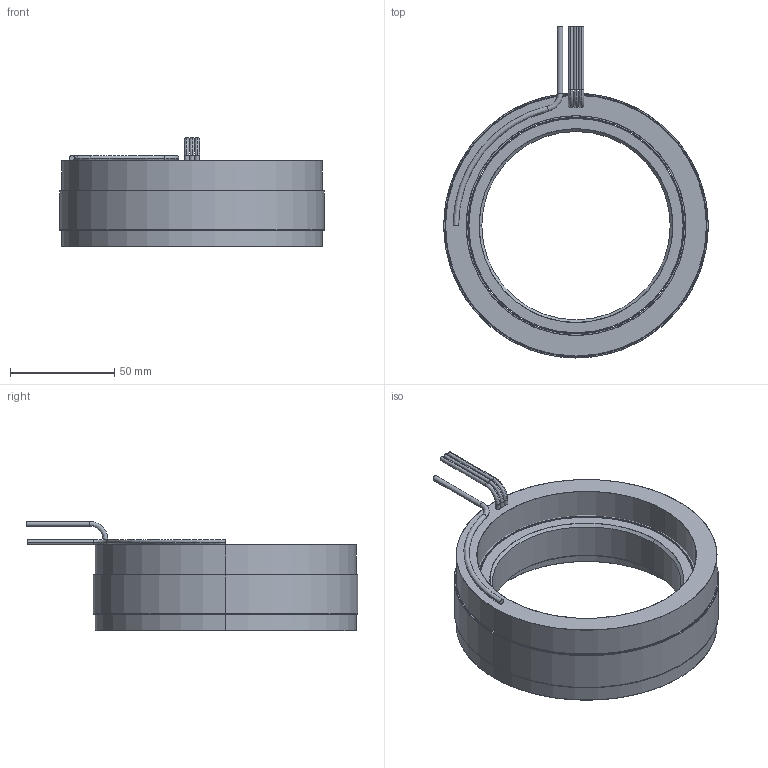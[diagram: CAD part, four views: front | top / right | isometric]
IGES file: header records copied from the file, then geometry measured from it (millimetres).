
Start section: SolidWorks IGES file using analytic representation for surfaces
Global section: file name: \\fs01.aveox.local\user documents\eng\My Documents\6100396-XX STATOR AND ROTOR SET, UT-5000-32P3, SENSORLESS\6100396-02.IGS; native system: SolidWorks 2016; preprocessor: SolidWorks 2016; author: eng; date: 201215.100816; units: inch
Bounding box: 127 x 159.26 x 52.45 mm (x, y, z)
Surface area: 108940 mm2 (no closed solid volume)
Topology: 0 solids, 0 shells, 75 faces, 2236 edges, 2236 vertices
Faces by surface type: revolution 46, bspline 29
